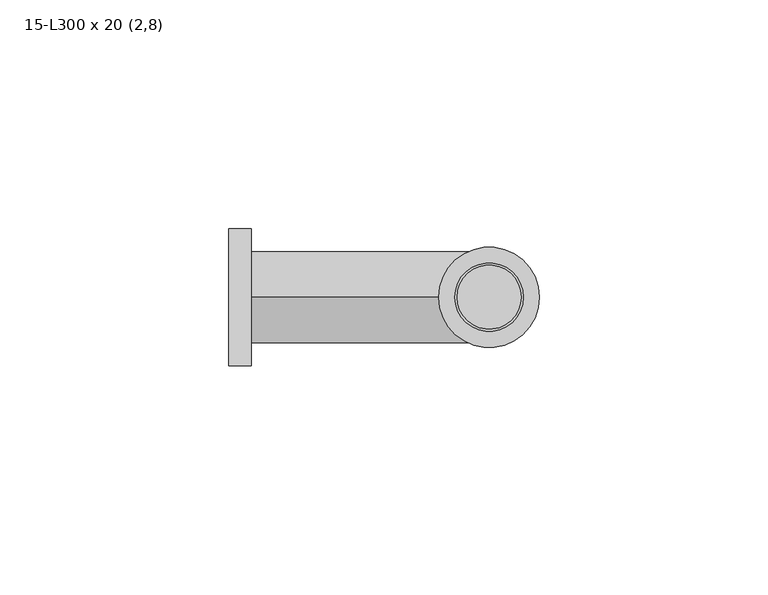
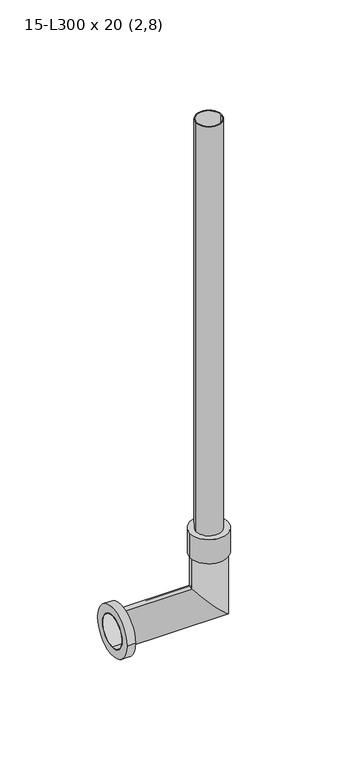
"""IFC4 building model written with IfcOpenShell, lengths in millimetres: pipe fitting geometry, БИР ПЕКС_Трубка приборная_Г-образная : 15-L300 x 20 (2,8)."""

from ifc_helpers import new_model, si_unit, point, frame, origin, origin_2d, place, context, project, spatial, polyline, circle_curve, ellipse_curve, trimmed, segment, composite_curve, outline, extrude, source, transform, mapped, element, save
from ifc_brep_helpers import plane_surface, cylinder_surface, revolved_surface, advanced_brep


def pipe_fitting_15_l300_x_20_2_8_8d4dec9b(model_context):
    return source(origin(), model_context, "Body", "SolidModel", [
        extrude(outline(composite_curve([segment(trimmed(circle_curve(origin_2d(), 7.5), [point((-7.5, 0.0))], [point((7.5, 0.0))], False, "CARTESIAN"), True, "CONTINUOUS"), segment(trimmed(circle_curve(origin_2d(), 7.5), [point((7.5, 0.0))], [point((-7.5, 0.0))], False, "CARTESIAN"), True, "CONTINUOUS")], self_intersect=False), holes=[composite_curve([segment(trimmed(circle_curve(origin_2d(), 7.0), [point((-7.0, 0.0))], [point((7.0, 0.0))], True, "CARTESIAN"), True, "CONTINUOUS"), segment(trimmed(circle_curve(origin_2d(), 7.0), [point((7.0, 0.0))], [point((-7.0, 0.0))], True, "CARTESIAN"), True, "CONTINUOUS")], self_intersect=False)]), frame((0.0, 0.0, 45.0), z_axis=(0.0, 0.0, 1.0), x_axis=(1.0, 0.0, 0.0)), (0.0, 0.0, 1.0), 255.0),
        extrude(outline(composite_curve([segment(trimmed(circle_curve(origin_2d(), 11.0), [point((-11.0, 0.0))], [point((11.0, 0.0))], False, "CARTESIAN"), True, "CONTINUOUS"), segment(trimmed(circle_curve(origin_2d(), 11.0), [point((11.0, 0.0))], [point((-11.0, 0.0))], False, "CARTESIAN"), True, "CONTINUOUS")], self_intersect=False)), frame((0.0, 0.0, 30.0), z_axis=(0.0, 0.0, 1.0), x_axis=(1.0, 0.0, 0.0)), (0.0, 0.0, 1.0), 15.0),
        extrude(outline(composite_curve([segment(trimmed(circle_curve(origin_2d(), 15.0), [point((-15.0, 0.0))], [point((15.0, 0.0))], False, "CARTESIAN"), True, "CONTINUOUS"), segment(trimmed(circle_curve(origin_2d(), 15.0), [point((15.0, 0.0))], [point((-15.0, 0.0))], False, "CARTESIAN"), True, "CONTINUOUS")], self_intersect=False), holes=[composite_curve([segment(trimmed(circle_curve(origin_2d(), 10.0), [point((-10.0, 0.0))], [point((10.0, 0.0))], True, "CARTESIAN"), True, "CONTINUOUS"), segment(trimmed(circle_curve(origin_2d(), 10.0), [point((10.0, 0.0))], [point((-10.0, 0.0))], True, "CARTESIAN"), True, "CONTINUOUS")], self_intersect=False)]), frame((-57.0, 0.0, 0.0), z_axis=(1.0, 0.0, 0.0), x_axis=(0.0, 1.0, 0.0)), (0.0, 0.0, 1.0), 5.0),
        advanced_brep(
        [(-57.0, 0.0, -10.0), (-57.0, 0.0, 10.0), (-57.0, 0.0, -9.5), (-57.0, 0.0, 9.5), (10.0, 0.0, -10.0), (-10.0, 0.0, 10.0), (10.0, 0.0, 30.0), (-10.0, 0.0, 30.0), (9.5, 0.0, 30.0), (-9.5, 0.0, 30.0), (9.5, 0.0, -9.5), (-9.5, 0.0, 9.5)],
        [
            (0, 1, circle_curve(frame((-57.0, 0.0, 0.0), z_axis=(-1.0, 0.0, 0.0), x_axis=(0.0, 0.0, 1.0)), 10.0)),
            (1, 0, circle_curve(frame((-57.0, 0.0, 0.0), z_axis=(-1.0, 0.0, 0.0), x_axis=(0.0, 0.0, 1.0)), 10.0)),
            (2, 3, circle_curve(frame((-57.0, 0.0, 0.0), z_axis=(1.0, 0.0, 0.0), x_axis=(0.0, 0.0, 1.0)), 9.5)),
            (3, 2, circle_curve(frame((-57.0, 0.0, 0.0), z_axis=(1.0, 0.0, 0.0), x_axis=(0.0, 0.0, 1.0)), 9.5)),
            (0, 4),
            (4, 5, ellipse_curve(frame((0.0, 0.0, 0.0), z_axis=(-0.7071067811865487, 0.0, -0.7071067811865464), x_axis=(-0.7071067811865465, 0.0, 0.7071067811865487)), 14.1421356, 10.0)),
            (5, 1),
            (5, 4, ellipse_curve(frame((0.0, 0.0, 0.0), z_axis=(-0.7071067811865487, 0.0, -0.7071067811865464), x_axis=(-0.7071067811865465, 0.0, 0.7071067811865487)), 14.1421356, 10.0)),
            (6, 7, circle_curve(frame((0.0, 0.0, 30.0), z_axis=(0.0, 0.0, 1.0), x_axis=(-1.0, 0.0, 0.0)), 10.0)),
            (7, 6, circle_curve(frame((0.0, 0.0, 30.0), z_axis=(0.0, 0.0, 1.0), x_axis=(-1.0, 0.0, 0.0)), 10.0)),
            (8, 9, circle_curve(frame((0.0, 0.0, 30.0), z_axis=(0.0, 0.0, -1.0), x_axis=(-1.0, 0.0, 0.0)), 9.5)),
            (9, 8, circle_curve(frame((0.0, 0.0, 30.0), z_axis=(0.0, 0.0, -1.0), x_axis=(-1.0, 0.0, 0.0)), 9.5)),
            (4, 6),
            (7, 5),
            (2, 10),
            (10, 11, ellipse_curve(frame((0.0, 0.0, 0.0), z_axis=(0.7071067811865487, 0.0, 0.7071067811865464), x_axis=(0.7071067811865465, 0.0, -0.7071067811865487)), 13.4350288, 9.5)),
            (11, 3),
            (11, 10, ellipse_curve(frame((0.0, 0.0, 0.0), z_axis=(0.7071067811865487, 0.0, 0.7071067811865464), x_axis=(0.7071067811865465, 0.0, -0.7071067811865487)), 13.4350288, 9.5)),
            (10, 8),
            (9, 11),
        ],
        [
            plane_surface(frame((-57.0, 0.0, 0.0), z_axis=(-1.0, 0.0, 0.0), x_axis=(0.0, -1.0, 0.0))),
            cylinder_surface(frame((-57.0, 0.0, 0.0), z_axis=(-1.0, 0.0, 0.0), x_axis=(0.0, 0.0, 1.0)), 10.0),
            plane_surface(frame((0.0, 0.0, 30.0), z_axis=(0.0, 0.0, 1.0), x_axis=(0.0, -1.0, 0.0))),
            cylinder_surface(frame((0.0, 0.0, 0.0), z_axis=(0.0, 0.0, -1.0), x_axis=(-1.0, 0.0, 0.0)), 10.0),
            revolved_surface(polyline([(9.5, 0.0, 9.5), (-57.0, 0.0, 9.5)]), (-57.0, 0.0, 0.0), (1.0, 0.0, 0.0)),
            revolved_surface(polyline([(-9.5, 0.0, 30.0), (-9.5, 0.0, -9.5)]), (0.0, 0.0, 0.0), (0.0, 0.0, 1.0)),
        ],
        [
            (0, [[1, 2], [3, 4]]),
            (1, [[-1, 5, 6, 7]]),
            (1, [[-2, -7, 8, -5]]),
            (2, [[9, 10], [11, 12]]),
            (3, [[-6, 13, -10, 14]]),
            (3, [[-8, -14, -9, -13]]),
            (4, [[-3, 15, 16, 17]]),
            (4, [[-4, -17, 18, -15]]),
            (5, [[-16, 19, -12, 20]]),
            (5, [[-18, -20, -11, -19]]),
        ],
    ),
    ])


if __name__ == "__main__":
    model = new_model("IFC4")
    model_context = context("Model", 3, world=origin())
    ifc_project = project(units=[si_unit("LENGTHUNIT", "METRE", prefix="MILLI")], contexts=[model_context])
    site = spatial("IfcSite", under=ifc_project)
    building = spatial("IfcBuilding", under=site)
    placement = place(None, origin())
    pipe_fitting_15_l300_x_20_2_8_shape = pipe_fitting_15_l300_x_20_2_8_8d4dec9b(model_context)
    element("IfcPipeFitting", 1, ObjectType="БИР ПЕКС_Трубка приборная_Г-образная : 15-L300 x 20 (2,8)", at=placement, inside=building, context=model_context, shape_type="MappedRepresentation", body=[
        mapped(pipe_fitting_15_l300_x_20_2_8_shape, transform((0.0, 0.0, 0.0), x_axis=(1.0, 0.0, 0.0), y_axis=(0.0, 1.0, 0.0), z_axis=(0.0, 0.0, 1.0))),
    ])
    save(model, "model.ifc")
